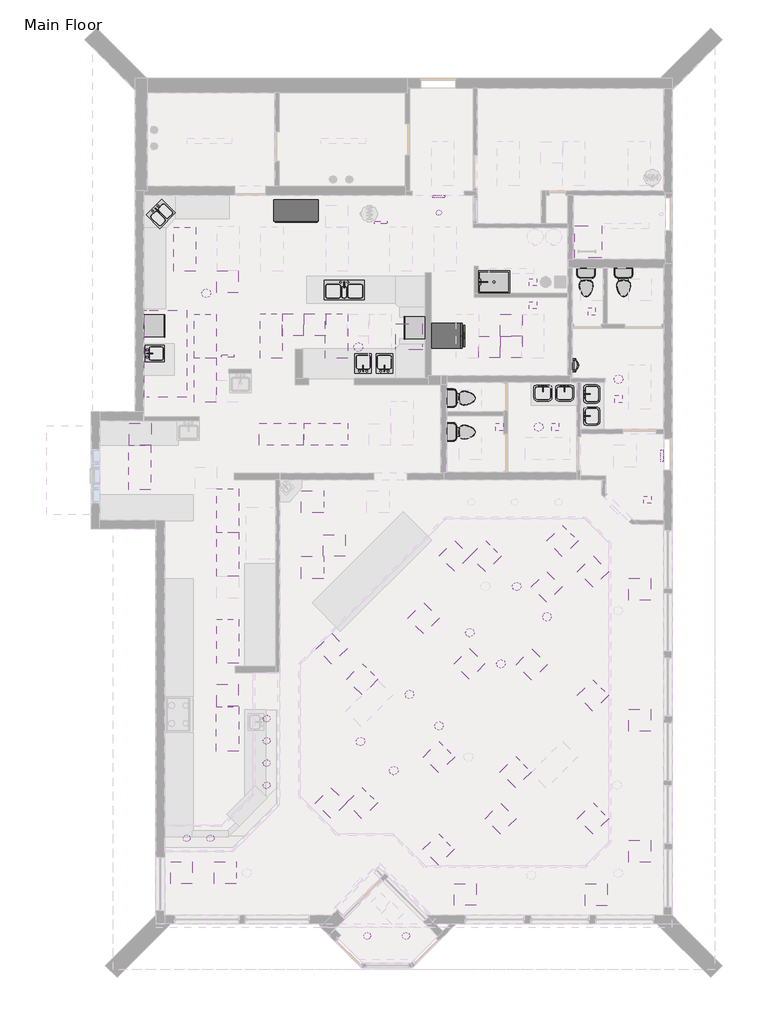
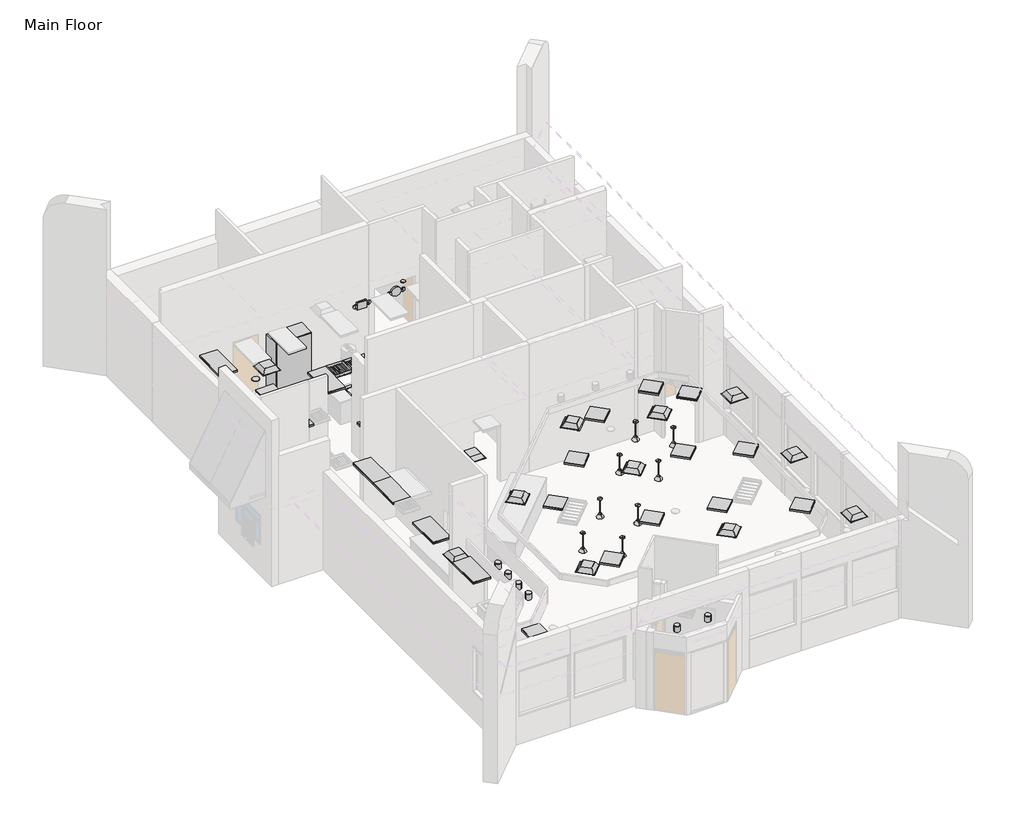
# One storey, part 5 of 6: 44 proxies, 43 light fixtures, 16 flow terminals.
"""IFC4 building model written with IfcOpenShell, lengths in millimetres."""

from ifc_helpers import new_model, si_unit, origin, place, context, project, spatial, transform, mapped, element, save
from components import air_vent_default_1_d5ec2509, air_vent_default_1_1334f17f, proxy_d9ecea55, ceiling_diffuser_default_1_edc1f895, default_1_30724830, emergency_battery_unit_default_1_01bbe0c5, emergency_light_ceiling_mounted_default_1_dcc5d60b, exhaust_hood_default_1_27298f71, exhaust_hood_default_1_90655286, freezer_default_1_44b13db3, fridge_default_1_1eb3d78d, other_default_1_57568a5f, speaker_default_1_aa482b27, flow_terminal_2d_kitchen_double_sink_default_1_641e8a09, flow_terminal_2d_kitchen_single_sink_default_1_6e0e1d67, flow_terminal_2d_kitchen_single_sink_default_1_1ce31d3a, bath_shower_basin_rectangular_default_1_810ac732, bath_basin_do_not_use_500_x_440mm_22030706, bath_urinal_default_1_75978a72, kitchen_triple_sink_default_1_5af0c558, kitchen_triple_sink_default_1_80febd71, toilet_default_1_5cb52bd4, toilet_default_1_183bbd19, wall_faucet_default_1_a1a6fd1c, pendant_light_default_1_241a7df5, recessed_fluorescent_light_default_1_c438942c, recessed_fluorescent_light_default_1_8456e3b0, light_fixture_643521e1

model = new_model("IFC4")

# Units and contexts
model_context = context("Model", 3, world=origin())
ifc_project = project(units=[si_unit("LENGTHUNIT", "METRE", prefix="MILLI")], contexts=[model_context])

# Site, building, storey
site = spatial("IfcSite", under=ifc_project)
building = spatial("IfcBuilding", under=site)
storey = spatial("IfcBuildingStorey", under=building, Name="Main Floor", Elevation=0.0)

# Proxies
placement = place(None, origin())
air_vent_default_1_shape = air_vent_default_1_d5ec2509(model_context)
element("IfcBuildingElementProxy", 1, Name="Air Vent : Default 1", ObjectType="Air Vent : Default 1", at=placement, inside=storey, context=model_context, shape_type="MappedRepresentation", body=[
    mapped(air_vent_default_1_shape, transform((4251.6515232, 5000.4499204, 152.4), x_axis=(1.0, 0.0, 0.0), y_axis=(0.0, 1.0, 0.0), z_axis=(0.0, 0.0, 1.0))),
])
element("IfcBuildingElementProxy", 2, Name="Air Vent : Default 1", ObjectType="Air Vent : Default 1", at=placement, inside=storey, context=model_context, shape_type="MappedRepresentation", body=[
    mapped(air_vent_default_1_shape, transform((4251.6515232, 4403.5499204, 152.4), x_axis=(1.0, 0.0, 0.0), y_axis=(0.0, 1.0, 0.0), z_axis=(0.0, 0.0, 1.0))),
])
element("IfcBuildingElementProxy", 3, Name="Air Vent : Default 1", ObjectType="Air Vent : Default 1", at=placement, inside=storey, context=model_context, shape_type="MappedRepresentation", body=[
    mapped(air_vent_default_1_shape, transform((3654.7515232, 4403.5499204, 152.4), x_axis=(1.0, 0.0, 0.0), y_axis=(0.0, 1.0, 0.0), z_axis=(0.0, 0.0, 1.0))),
])
element("IfcBuildingElementProxy", 4, Name="Air Vent : Default 1", ObjectType="Air Vent : Default 1", at=placement, inside=storey, context=model_context, shape_type="MappedRepresentation", body=[
    mapped(air_vent_default_1_shape, transform((-1149.515512, 5010.888886, 152.4), x_axis=(1.0, 0.0, 0.0), y_axis=(0.0, 1.0, 0.0), z_axis=(0.0, 0.0, 1.0))),
])
element("IfcBuildingElementProxy", 5, Name="Air Vent : Default 1", ObjectType="Air Vent : Default 1", at=placement, inside=storey, context=model_context, shape_type="MappedRepresentation", body=[
    mapped(air_vent_default_1_shape, transform((-1746.4156402, 5010.8890104, 152.4), x_axis=(1.0, 0.0, 0.0), y_axis=(0.0, 1.0, 0.0), z_axis=(0.0, 0.0, 1.0))),
])
air_vent_default_1_2_shape = air_vent_default_1_1334f17f(model_context)
element("IfcBuildingElementProxy", 6, Name="Air Vent : Default 1", ObjectType="Air Vent : Default 1", at=placement, inside=storey, context=model_context, shape_type="MappedRepresentation", body=[
    mapped(air_vent_default_1_2_shape, transform((4850.803255, 5546.5499204, 152.4), x_axis=(1.0, 0.0, 0.0), y_axis=(0.0, 1.0, 0.0), z_axis=(0.0, 0.0, 1.0))),
])
element("IfcBuildingElementProxy", 7, Name="Air Vent : Default 1", ObjectType="Air Vent : Default 1", at=placement, inside=storey, context=model_context, shape_type="MappedRepresentation", body=[
    mapped(air_vent_default_1_2_shape, transform((4850.803255, 6181.5499204, 152.4), x_axis=(1.0, 0.0, 0.0), y_axis=(0.0, 1.0, 0.0), z_axis=(0.0, 0.0, 1.0))),
])
element("IfcBuildingElementProxy", 8, Name="Air Vent : Default 1", ObjectType="Air Vent : Default 1", at=placement, inside=storey, context=model_context, shape_type="MappedRepresentation", body=[
    mapped(air_vent_default_1_2_shape, transform((5463.2333864, 2200.0999204, 152.4), x_axis=(1.0, 0.0, 0.0), y_axis=(0.0, 1.0, 0.0), z_axis=(0.0, 0.0, 1.0))),
])
element("IfcBuildingElementProxy", 9, Name="Air Vent : Default 1", ObjectType="Air Vent : Default 1", at=placement, inside=storey, context=model_context, shape_type="MappedRepresentation", body=[
    mapped(air_vent_default_1_2_shape, transform((3926.5333864, 2200.0999204, 152.4), x_axis=(1.0, 0.0, 0.0), y_axis=(0.0, 1.0, 0.0), z_axis=(0.0, 0.0, 1.0))),
])
element("IfcBuildingElementProxy", 10, Name="Air Vent : Default 1", ObjectType="Air Vent : Default 1", at=placement, inside=storey, context=model_context, shape_type="MappedRepresentation", body=[
    mapped(air_vent_default_1_2_shape, transform((7203.1333864, 2974.7999204, 152.4), x_axis=(1.0, 0.0, 0.0), y_axis=(0.0, 1.0, 0.0), z_axis=(0.0, 0.0, 1.0))),
])
element("IfcBuildingElementProxy", 11, Name="Air Vent : Default 1", ObjectType="Air Vent : Default 1", at=placement, inside=storey, context=model_context, shape_type="MappedRepresentation", body=[
    mapped(air_vent_default_1_2_shape, transform((6466.5333864, 5375.0999204, 152.4), x_axis=(1.0, 0.0, 0.0), y_axis=(0.0, 1.0, 0.0), z_axis=(0.0, 0.0, 1.0))),
])
element("IfcBuildingElementProxy", 12, Name="Air Vent : Default 1", ObjectType="Air Vent : Default 1", at=placement, inside=storey, context=model_context, shape_type="MappedRepresentation", body=[
    mapped(air_vent_default_1_2_shape, transform((7996.8833864, 198.9890826, 254.0), x_axis=(1.0, 0.0, 0.0), y_axis=(0.0, 1.0, 0.0), z_axis=(0.0, 0.0, 1.0))),
])
proxy_shape = proxy_d9ecea55(model_context)
element("IfcBuildingElementProxy", 13, Name="Attic Access Hatch : 2'-0\" x 2'-0\" 2", ObjectType="Attic Access Hatch : 2'-0\" x 2'-0\" 2", at=placement, inside=storey, context=model_context, shape_type="MappedRepresentation", body=[
    mapped(proxy_shape, transform((6371.2833864, 7292.7999204, 1168.4), x_axis=(1.0, 0.0, 0.0), y_axis=(0.0, 1.0, 0.0), z_axis=(0.0, 0.0, 1.0))),
])
ceiling_diffuser_default_1_shape = ceiling_diffuser_default_1_edc1f895(model_context)
element("IfcBuildingElementProxy", 14, Name="Ceiling Diffuser : Default 1", ObjectType="Ceiling Diffuser : Default 1", at=placement, inside=storey, context=model_context, shape_type="MappedRepresentation", body=[
    mapped(ceiling_diffuser_default_1_shape, transform((7789.3833864, -2263.9500796, 2743.2), x_axis=(1.0, 0.0, 0.0), y_axis=(0.0, 1.0, 0.0), z_axis=(0.0, 0.0, 1.0))),
])
element("IfcBuildingElementProxy", 15, Name="Ceiling Diffuser : Default 1", ObjectType="Ceiling Diffuser : Default 1", at=placement, inside=storey, context=model_context, shape_type="MappedRepresentation", body=[
    mapped(ceiling_diffuser_default_1_shape, transform((7786.2083864, -5861.712009, 2743.2), x_axis=(1.0, 0.0, 0.0), y_axis=(0.0, 1.0, 0.0), z_axis=(0.0, 0.0, 1.0))),
])
element("IfcBuildingElementProxy", 16, Name="Ceiling Diffuser : Default 1", ObjectType="Ceiling Diffuser : Default 1", at=placement, inside=storey, context=model_context, shape_type="MappedRepresentation", body=[
    mapped(ceiling_diffuser_default_1_shape, transform((7786.2083864, -9468.512009, 2743.2), x_axis=(1.0, 0.0, 0.0), y_axis=(0.0, 1.0, 0.0), z_axis=(0.0, 0.0, 1.0))),
])
element("IfcBuildingElementProxy", 17, Name="Ceiling Diffuser : Default 1", ObjectType="Ceiling Diffuser : Default 1", at=placement, inside=storey, context=model_context, shape_type="MappedRepresentation", body=[
    mapped(ceiling_diffuser_default_1_shape, transform((6589.2333864, -10661.1946543, 2743.2), x_axis=(1.0, 0.0, 0.0), y_axis=(0.0, 1.0, 0.0), z_axis=(0.0, 0.0, 1.0))),
])
element("IfcBuildingElementProxy", 18, Name="Ceiling Diffuser : Default 1", ObjectType="Ceiling Diffuser : Default 1", at=placement, inside=storey, context=model_context, shape_type="MappedRepresentation", body=[
    mapped(ceiling_diffuser_default_1_shape, transform((2986.2683764, -10658.6500796, 2743.2), x_axis=(1.0, 0.0, 0.0), y_axis=(0.0, 1.0, 0.0), z_axis=(0.0, 0.0, 1.0))),
])
element("IfcBuildingElementProxy", 19, Name="Ceiling Diffuser : Default 1", ObjectType="Ceiling Diffuser : Default 1", at=placement, inside=storey, context=model_context, shape_type="MappedRepresentation", body=[
    mapped(ceiling_diffuser_default_1_shape, transform((-4815.3666136, -10061.1196543, 2743.2), x_axis=(1.0, 0.0, 0.0), y_axis=(0.0, 1.0, 0.0), z_axis=(0.0, 0.0, 1.0))),
])
element("IfcBuildingElementProxy", 20, Name="Ceiling Diffuser : Default 1", ObjectType="Ceiling Diffuser : Default 1", at=placement, inside=storey, context=model_context, shape_type="MappedRepresentation", body=[
    mapped(ceiling_diffuser_default_1_shape, transform((-613.7166136, -1061.1114276, 2743.2), x_axis=(1.0, 0.0, 0.0), y_axis=(0.0, 1.0, 0.0), z_axis=(0.0, 0.0, 1.0))),
])
element("IfcBuildingElementProxy", 21, Name="Ceiling Diffuser : Default 1", ObjectType="Ceiling Diffuser : Default 1", at=placement, inside=storey, context=model_context, shape_type="MappedRepresentation", body=[
    mapped(ceiling_diffuser_default_1_shape, transform((-3547.4166136, -5178.6000796, 2590.8), x_axis=(1.0, 0.0, 0.0), y_axis=(0.0, 1.0, 0.0), z_axis=(0.0, 0.0, 1.0))),
])
element("IfcBuildingElementProxy", 22, Name="Ceiling Diffuser : Default 1", ObjectType="Ceiling Diffuser : Default 1", at=placement, inside=storey, context=model_context, shape_type="MappedRepresentation", body=[
    mapped(ceiling_diffuser_default_1_shape, transform((-5949.619329, 1998.2462841, 2590.8), x_axis=(1.0, 0.0, 0.0), y_axis=(0.0, 1.0, 0.0), z_axis=(0.0, 0.0, 1.0))),
])
element("IfcBuildingElementProxy", 23, Name="Ceiling Diffuser : Default 1", ObjectType="Ceiling Diffuser : Default 1", at=placement, inside=storey, context=model_context, shape_type="MappedRepresentation", body=[
    mapped(ceiling_diffuser_default_1_shape, transform((-706.2827476, -8141.9269933, 2946.4), x_axis=(0.7071067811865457, -0.7071067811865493, 0.0), y_axis=(0.7071067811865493, 0.7071067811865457, 0.0), z_axis=(0.0, 0.0, 1.0))),
])
element("IfcBuildingElementProxy", 24, Name="Ceiling Diffuser : Default 1", ObjectType="Ceiling Diffuser : Default 1", at=placement, inside=storey, context=model_context, shape_type="MappedRepresentation", body=[
    mapped(ceiling_diffuser_default_1_shape, transform((5229.6546641, -2199.634079, 2946.4), x_axis=(0.7071067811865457, -0.7071067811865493, 0.0), y_axis=(0.7071067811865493, 0.7071067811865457, 0.0), z_axis=(0.0, 0.0, 1.0))),
])
element("IfcBuildingElementProxy", 25, Name="Ceiling Diffuser : Default 1", ObjectType="Ceiling Diffuser : Default 1", at=placement, inside=storey, context=model_context, shape_type="MappedRepresentation", body=[
    mapped(ceiling_diffuser_default_1_shape, transform((-683.117186, -3899.1250399, 2946.4), x_axis=(0.7071067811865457, -0.7071067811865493, 0.0), y_axis=(0.7071067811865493, 0.7071067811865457, 0.0), z_axis=(0.0, 0.0, 1.0))),
])
element("IfcBuildingElementProxy", 26, Name="Ceiling Diffuser : Default 1", ObjectType="Ceiling Diffuser : Default 1", at=placement, inside=storey, context=model_context, shape_type="MappedRepresentation", body=[
    mapped(ceiling_diffuser_default_1_shape, transform((2694.7172176, -1347.4741995, 2946.4), x_axis=(0.7071067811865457, -0.7071067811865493, 0.0), y_axis=(0.7071067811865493, 0.7071067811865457, 0.0), z_axis=(0.0, 0.0, 1.0))),
])
element("IfcBuildingElementProxy", 27, Name="Ceiling Diffuser : Default 1", ObjectType="Ceiling Diffuser : Default 1", at=placement, inside=storey, context=model_context, shape_type="MappedRepresentation", body=[
    mapped(ceiling_diffuser_default_1_shape, transform((3962.4371274, -8570.7783501, 2946.4), x_axis=(0.7071067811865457, -0.7071067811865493, 0.0), y_axis=(0.7071067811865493, 0.7071067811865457, 0.0), z_axis=(0.0, 0.0, 1.0))),
])
element("IfcBuildingElementProxy", 28, Name="Ceiling Diffuser : Default 1", ObjectType="Ceiling Diffuser : Default 1", at=placement, inside=storey, context=model_context, shape_type="MappedRepresentation", body=[
    mapped(ceiling_diffuser_default_1_shape, transform((3104.3002881, -4314.4674305, 2946.4), x_axis=(0.7071067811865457, -0.7071067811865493, 0.0), y_axis=(0.7071067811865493, 0.7071067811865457, 0.0), z_axis=(0.0, 0.0, 1.0))),
])
element("IfcBuildingElementProxy", 29, Name="Ceiling Diffuser : Default 1", ObjectType="Ceiling Diffuser : Default 1", at=placement, inside=storey, context=model_context, shape_type="MappedRepresentation", body=[
    mapped(ceiling_diffuser_default_1_shape, transform((-3549.6082055, 6198.2485173, 2590.8), x_axis=(1.0, 0.0, 0.0), y_axis=(0.0, 1.0, 0.0), z_axis=(0.0, 0.0, 1.0))),
])
default_1_shape = default_1_30724830(model_context)
element("IfcBuildingElementProxy", 30, Name="Emegency Light - Wall Mounted : Default 1", ObjectType="Emegency Light - Wall Mounted : Default 1", at=placement, inside=storey, context=model_context, shape_type="MappedRepresentation", body=[
    mapped(default_1_shape, transform((2262.8333864, 8569.1499204, 152.4), x_axis=(1.0, 0.0, 0.0), y_axis=(0.0, 1.0, 0.0), z_axis=(0.0, 0.0, 1.0))),
])
element("IfcBuildingElementProxy", 31, Name="Emegency Light - Wall Mounted : Default 1", ObjectType="Emegency Light - Wall Mounted : Default 1", at=placement, inside=storey, context=model_context, shape_type="MappedRepresentation", body=[
    mapped(default_1_shape, transform((8435.1891469, 1411.8414826, 254.0), x_axis=(0.0, -1.0, 0.0), y_axis=(1.0, 0.0, 0.0), z_axis=(0.0, 0.0, 1.0))),
])
emergency_battery_unit_default_1_shape = emergency_battery_unit_default_1_01bbe0c5(model_context)
element("IfcBuildingElementProxy", 32, Name="Emergency Battery Unit : Default 1", ObjectType="Emergency Battery Unit : Default 1", at=placement, inside=storey, context=model_context, shape_type="MappedRepresentation", body=[
    mapped(emergency_battery_unit_default_1_shape, transform((662.6333864, 6873.0910968, 152.4), x_axis=(1.0, 0.0, 0.0), y_axis=(0.0, 1.0, 0.0), z_axis=(0.0, 0.0, 1.0))),
])
element("IfcBuildingElementProxy", 33, Name="Emergency Battery Unit : Default 1", ObjectType="Emergency Battery Unit : Default 1", at=placement, inside=storey, context=model_context, shape_type="MappedRepresentation", body=[
    mapped(emergency_battery_unit_default_1_shape, transform((-3547.4166136, 5096.308744, 152.4), x_axis=(-1.0, 0.0, 0.0), y_axis=(0.0, -1.0, 0.0), z_axis=(0.0, 0.0, 1.0))),
])
emergency_light_ceiling_mounted_default_1_shape = emergency_light_ceiling_mounted_default_1_dcc5d60b(model_context)
element("IfcBuildingElementProxy", 34, Name="Emergency Light- Ceiling Mounted : Default 1", ObjectType="Emergency Light- Ceiling Mounted : Default 1", at=placement, inside=storey, context=model_context, shape_type="MappedRepresentation", body=[
    mapped(emergency_light_ceiling_mounted_default_1_shape, transform((2262.8333864, 8092.8999204, 152.4), x_axis=(1.0, 0.0, 0.0), y_axis=(0.0, 1.0, 0.0), z_axis=(0.0, 0.0, 1.0))),
])
exhaust_hood_default_1_shape = exhaust_hood_default_1_27298f71(model_context)
element("IfcBuildingElementProxy", 35, Name="Exhaust Hood : Default 1", ObjectType="Exhaust Hood : Default 1", at=placement, inside=storey, context=model_context, shape_type="MappedRepresentation", body=[
    mapped(exhaust_hood_default_1_shape, transform((1081.7333864, 5038.5499204, 0.0), x_axis=(0.0, -1.0, 0.0), y_axis=(1.0, 0.0, 0.0), z_axis=(0.0, 0.0, 1.0))),
])
exhaust_hood_default_1_2_shape = exhaust_hood_default_1_90655286(model_context)
element("IfcBuildingElementProxy", 36, Name="Exhaust Hood : Default 1", ObjectType="Exhaust Hood : Default 1", at=placement, inside=storey, context=model_context, shape_type="MappedRepresentation", body=[
    mapped(exhaust_hood_default_1_2_shape, transform((-4676.4409752, 5408.0157673, 0.0), x_axis=(-1.0, 0.0, 0.0), y_axis=(0.0, -1.0, 0.0), z_axis=(0.0, 0.0, 1.0))),
])
freezer_default_1_shape = freezer_default_1_44b13db3(model_context)
element("IfcBuildingElementProxy", 37, Name="Freezer : Default 1", ObjectType="Freezer : Default 1", at=placement, inside=storey, context=model_context, shape_type="MappedRepresentation", body=[
    mapped(freezer_default_1_shape, transform((-1277.349669, 8444.8999204, 0.0), x_axis=(1.0, 0.0, 0.0), y_axis=(0.0, 1.0, 0.0), z_axis=(0.0, 0.0, 1.0))),
])
fridge_default_1_shape = fridge_default_1_1eb3d78d(model_context)
element("IfcBuildingElementProxy", 38, Name="Fridge : Default 1", ObjectType="Fridge : Default 1", at=placement, inside=storey, context=model_context, shape_type="MappedRepresentation", body=[
    mapped(fridge_default_1_shape, transform((1959.6333864, 4706.7364408, 0.0), x_axis=(0.0, 1.0, 0.0), y_axis=(-1.0, 0.0, 0.0), z_axis=(0.0, 0.0, 1.0))),
])
other_default_1_shape = other_default_1_57568a5f(model_context)
element("IfcBuildingElementProxy", 39, Name="Other : Default 1", ObjectType="Other : Default 1", at=placement, inside=storey, context=model_context, shape_type="MappedRepresentation", body=[
    mapped(other_default_1_shape, transform((1977.8513864, 4927.8528598, 0.0), x_axis=(0.0, -1.0, 0.0), y_axis=(1.0, 0.0, 0.0), z_axis=(0.0, 0.0, 1.0))),
])
element("IfcBuildingElementProxy", 40, Name="Other : Default 1", ObjectType="Other : Default 1", at=placement, inside=storey, context=model_context, shape_type="MappedRepresentation", body=[
    mapped(other_default_1_shape, transform((-5946.1166136, 4981.3999204, 0.0), x_axis=(0.0, 1.0, 0.0), y_axis=(-1.0, 0.0, 0.0), z_axis=(0.0, 0.0, 1.0))),
])
speaker_default_1_shape = speaker_default_1_aa482b27(model_context)
element("IfcBuildingElementProxy", 41, Name="Speaker : Default 1", ObjectType="Speaker : Default 1", at=placement, inside=storey, context=model_context, shape_type="MappedRepresentation", body=[
    mapped(speaker_default_1_shape, transform((-4131.6166136, 5876.7499204, 152.4), x_axis=(1.0, 0.0, 0.0), y_axis=(0.0, 1.0, 0.0), z_axis=(0.0, 0.0, 1.0))),
])
element("IfcBuildingElementProxy", 42, Name="Speaker : Default 1", ObjectType="Speaker : Default 1", at=placement, inside=storey, context=model_context, shape_type="MappedRepresentation", body=[
    mapped(speaker_default_1_shape, transform((46.6833864, 4397.1999204, 152.4), x_axis=(1.0, 0.0, 0.0), y_axis=(0.0, 1.0, 0.0), z_axis=(0.0, 0.0, 1.0))),
])
element("IfcBuildingElementProxy", 43, Name="Speaker : Default 1", ObjectType="Speaker : Default 1", at=placement, inside=storey, context=model_context, shape_type="MappedRepresentation", body=[
    mapped(speaker_default_1_shape, transform((5006.0333864, 2200.0999204, 152.4), x_axis=(1.0, 0.0, 0.0), y_axis=(0.0, 1.0, 0.0), z_axis=(0.0, 0.0, 1.0))),
])
element("IfcBuildingElementProxy", 44, Name="Speaker : Default 1", ObjectType="Speaker : Default 1", at=placement, inside=storey, context=model_context, shape_type="MappedRepresentation", body=[
    mapped(speaker_default_1_shape, transform((7203.1333864, 3514.5499204, 152.4), x_axis=(1.0, 0.0, 0.0), y_axis=(0.0, 1.0, 0.0), z_axis=(0.0, 0.0, 1.0))),
])

# Flow terminals
flow_terminal_2d_kitchen_double_sink_default_1_shape = flow_terminal_2d_kitchen_double_sink_default_1_641e8a09(model_context)
element("IfcFlowTerminal", 45, ObjectType="2D Kitchen-Double Sink : Default 1", at=placement, inside=storey, context=model_context, shape_type="MappedRepresentation", body=[
    mapped(flow_terminal_2d_kitchen_double_sink_default_1_shape, transform((-5394.1420974, 8047.9068331, 152.4), x_axis=(0.7071067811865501, 0.707106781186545, 0.0), y_axis=(-0.707106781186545, 0.7071067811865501, 0.0), z_axis=(0.0, 0.0, 1.0))),
])
flow_terminal_2d_kitchen_single_sink_default_1_shape = flow_terminal_2d_kitchen_single_sink_default_1_6e0e1d67(model_context)
element("IfcFlowTerminal", 46, ObjectType="2D Kitchen-Single Sink : Default 1", at=placement, inside=storey, context=model_context, shape_type="MappedRepresentation", body=[
    mapped(flow_terminal_2d_kitchen_single_sink_default_1_shape, transform((-5548.1237165, 4205.5552712, 152.4), x_axis=(0.0, 1.0, 0.0), y_axis=(-1.0, 0.0, 0.0), z_axis=(0.0, 0.0, 1.0))),
])
flow_terminal_2d_kitchen_single_sink_default_1_2_shape = flow_terminal_2d_kitchen_single_sink_default_1_1ce31d3a(model_context)
element("IfcFlowTerminal", 47, ObjectType="2D Kitchen-Single Sink : Default 1", at=placement, inside=storey, context=model_context, shape_type="MappedRepresentation", body=[
    mapped(flow_terminal_2d_kitchen_single_sink_default_1_2_shape, transform((779.922627, 3949.4953215, 0.0), x_axis=(-1.0, 0.0, 0.0), y_axis=(0.0, -1.0, 0.0), z_axis=(0.0, 0.0, 1.0))),
])
element("IfcFlowTerminal", 48, ObjectType="2D Kitchen-Single Sink : Default 1", at=placement, inside=storey, context=model_context, shape_type="MappedRepresentation", body=[
    mapped(flow_terminal_2d_kitchen_single_sink_default_1_2_shape, transform((195.722627, 3949.4953215, 0.0), x_axis=(-1.0, 0.0, 0.0), y_axis=(0.0, -1.0, 0.0), z_axis=(0.0, 0.0, 1.0))),
])
bath_shower_basin_rectangular_default_1_shape = bath_shower_basin_rectangular_default_1_810ac732(model_context)
element("IfcFlowTerminal", 49, ObjectType="Bath- Shower - Basin Rectangular : Default 1", at=placement, inside=storey, context=model_context, shape_type="MappedRepresentation", body=[
    mapped(bath_shower_basin_rectangular_default_1_shape, transform((3777.3083864, 6191.0749204, 0.0), x_axis=(1.0, 0.0, 0.0), y_axis=(0.0, 1.0, 0.0), z_axis=(0.0, 0.0, 1.0))),
])
bath_basin_do_not_use_500_x_440mm_shape = bath_basin_do_not_use_500_x_440mm_22030706(model_context)
element("IfcFlowTerminal", 50, ObjectType="Bath-Basin DO NOT USE : 500 x 440mm", at=placement, inside=storey, context=model_context, shape_type="MappedRepresentation", body=[
    mapped(bath_basin_do_not_use_500_x_440mm_shape, transform((5107.8191459, 3173.4045193, 152.4), x_axis=(1.0, 0.0, 0.0), y_axis=(0.0, 1.0, 0.0), z_axis=(0.0, 0.0, 1.0))),
])
element("IfcFlowTerminal", 51, ObjectType="Bath-Basin DO NOT USE : 500 x 440mm", at=placement, inside=storey, context=model_context, shape_type="MappedRepresentation", body=[
    mapped(bath_basin_do_not_use_500_x_440mm_shape, transform((5704.7191459, 3173.4045193, 152.4), x_axis=(1.0, 0.0, 0.0), y_axis=(0.0, 1.0, 0.0), z_axis=(0.0, 0.0, 1.0))),
])
element("IfcFlowTerminal", 52, ObjectType="Bath-Basin DO NOT USE : 500 x 440mm", at=placement, inside=storey, context=model_context, shape_type="MappedRepresentation", body=[
    mapped(bath_basin_do_not_use_500_x_440mm_shape, transform((6426.6787875, 3092.4606798, 152.4), x_axis=(0.0, 1.0, 0.0), y_axis=(-1.0, 0.0, 0.0), z_axis=(0.0, 0.0, 1.0))),
])
element("IfcFlowTerminal", 53, ObjectType="Bath-Basin DO NOT USE : 500 x 440mm", at=placement, inside=storey, context=model_context, shape_type="MappedRepresentation", body=[
    mapped(bath_basin_do_not_use_500_x_440mm_shape, transform((6426.6787875, 2482.8606798, 152.4), x_axis=(0.0, 1.0, 0.0), y_axis=(-1.0, 0.0, 0.0), z_axis=(0.0, 0.0, 1.0))),
])
bath_urinal_default_1_shape = bath_urinal_default_1_75978a72(model_context)
element("IfcFlowTerminal", 54, ObjectType="Bath-Urinal : Default 1", at=placement, inside=storey, context=model_context, shape_type="MappedRepresentation", body=[
    mapped(bath_urinal_default_1_shape, transform((5869.6333864, 3786.7324949, 0.0), x_axis=(0.0, -1.0, 0.0), y_axis=(1.0, 0.0, 0.0), z_axis=(0.0, 0.0, 1.0))),
])
kitchen_triple_sink_default_1_shape = kitchen_triple_sink_default_1_5af0c558(model_context)
kitchen_triple_sink_default_1_2_shape = kitchen_triple_sink_default_1_80febd71(model_context)
element("IfcFlowTerminal", 55, ObjectType="Kitchen - Triple Sink : Default 1", at=placement, inside=storey, context=model_context, shape_type="MappedRepresentation", body=[
    mapped(kitchen_triple_sink_default_1_shape, transform((-432.2364338, 5971.9999204, 0.0), x_axis=(1.0, 0.0, 0.0), y_axis=(0.0, 1.0, 0.0), z_axis=(0.0, 0.0, 1.0))),
    mapped(kitchen_triple_sink_default_1_2_shape, transform((-432.2364338, 5971.9999204, 0.0), x_axis=(1.0, 0.0, 0.0), y_axis=(0.0, 1.0, 0.0), z_axis=(0.0, 0.0, 1.0))),
])
toilet_default_1_shape = toilet_default_1_5cb52bd4(model_context)
toilet_default_1_2_shape = toilet_default_1_183bbd19(model_context)
element("IfcFlowTerminal", 56, ObjectType="Toilet : Default 1", at=placement, inside=storey, context=model_context, shape_type="MappedRepresentation", body=[
    mapped(toilet_default_1_shape, transform((6312.1333864, 6087.153893, 0.0), x_axis=(1.0, 0.0, 0.0), y_axis=(0.0, 1.0, 0.0), z_axis=(0.0, 0.0, 1.0))),
    mapped(toilet_default_1_2_shape, transform((6312.1333864, 6087.153893, 0.0), x_axis=(1.0, 0.0, 0.0), y_axis=(0.0, 1.0, 0.0), z_axis=(0.0, 0.0, 1.0))),
])
element("IfcFlowTerminal", 57, ObjectType="Toilet : Default 1", at=placement, inside=storey, context=model_context, shape_type="MappedRepresentation", body=[
    mapped(toilet_default_1_shape, transform((7342.1333864, 6087.153893, 0.0), x_axis=(1.0, 0.0, 0.0), y_axis=(0.0, 1.0, 0.0), z_axis=(0.0, 0.0, 1.0))),
    mapped(toilet_default_1_2_shape, transform((7342.1333864, 6087.153893, 0.0), x_axis=(1.0, 0.0, 0.0), y_axis=(0.0, 1.0, 0.0), z_axis=(0.0, 0.0, 1.0))),
])
element("IfcFlowTerminal", 58, ObjectType="Toilet : Default 1", at=placement, inside=storey, context=model_context, shape_type="MappedRepresentation", body=[
    mapped(toilet_default_1_shape, transform((2962.7294138, 2059.6999204, 0.0), x_axis=(0.0, 1.0, 0.0), y_axis=(-1.0, 0.0, 0.0), z_axis=(0.0, 0.0, 1.0))),
    mapped(toilet_default_1_2_shape, transform((2962.7294138, 2059.6999204, 0.0), x_axis=(0.0, 1.0, 0.0), y_axis=(-1.0, 0.0, 0.0), z_axis=(0.0, 0.0, 1.0))),
])
element("IfcFlowTerminal", 59, ObjectType="Toilet : Default 1", at=placement, inside=storey, context=model_context, shape_type="MappedRepresentation", body=[
    mapped(toilet_default_1_shape, transform((2962.7294138, 2993.1999204, 0.0), x_axis=(0.0, 1.0, 0.0), y_axis=(-1.0, 0.0, 0.0), z_axis=(0.0, 0.0, 1.0))),
    mapped(toilet_default_1_2_shape, transform((2962.7294138, 2993.1999204, 0.0), x_axis=(0.0, 1.0, 0.0), y_axis=(-1.0, 0.0, 0.0), z_axis=(0.0, 0.0, 1.0))),
])
wall_faucet_default_1_shape = wall_faucet_default_1_a1a6fd1c(model_context)
element("IfcFlowTerminal", 60, ObjectType="Wall Faucet : Default 1", at=placement, inside=storey, context=model_context, shape_type="MappedRepresentation", body=[
    mapped(wall_faucet_default_1_shape, transform((3528.8287875, 6175.3856798, 50.8), x_axis=(0.0, 1.0, 0.0), y_axis=(-1.0, 0.0, 0.0), z_axis=(0.0, 0.0, 1.0))),
])

# Light fixtures
pendant_light_default_1_shape = pendant_light_default_1_241a7df5(model_context)
element("IfcLightFixture", 61, ObjectType="Pendant Light : Default 1", at=placement, inside=storey, context=model_context, shape_type="MappedRepresentation", body=[
    mapped(pendant_light_default_1_shape, transform((1022.1002035, -7248.7000796, 508.0), x_axis=(1.0, 0.0, 0.0), y_axis=(0.0, 1.0, 0.0), z_axis=(0.0, 0.0, 1.0))),
])
element("IfcLightFixture", 62, ObjectType="Pendant Light : Default 1", at=placement, inside=storey, context=model_context, shape_type="MappedRepresentation", body=[
    mapped(pendant_light_default_1_shape, transform((107.7002035, -6448.6000796, 508.0), x_axis=(1.0, 0.0, 0.0), y_axis=(0.0, 1.0, 0.0), z_axis=(0.0, 0.0, 1.0))),
])
element("IfcLightFixture", 63, ObjectType="Pendant Light : Default 1", at=placement, inside=storey, context=model_context, shape_type="MappedRepresentation", body=[
    mapped(pendant_light_default_1_shape, transform((1453.9002035, -5153.2000796, 508.0), x_axis=(1.0, 0.0, 0.0), y_axis=(0.0, 1.0, 0.0), z_axis=(0.0, 0.0, 1.0))),
])
element("IfcLightFixture", 64, ObjectType="Pendant Light : Default 1", at=placement, inside=storey, context=model_context, shape_type="MappedRepresentation", body=[
    mapped(pendant_light_default_1_shape, transform((2266.7002035, -6016.8000796, 508.0), x_axis=(1.0, 0.0, 0.0), y_axis=(0.0, 1.0, 0.0), z_axis=(0.0, 0.0, 1.0))),
])
element("IfcLightFixture", 65, ObjectType="Pendant Light : Default 1", at=placement, inside=storey, context=model_context, shape_type="MappedRepresentation", body=[
    mapped(pendant_light_default_1_shape, transform((3968.5002035, -4312.1259793, 508.0), x_axis=(1.0, 0.0, 0.0), y_axis=(0.0, 1.0, 0.0), z_axis=(0.0, 0.0, 1.0))),
])
element("IfcLightFixture", 66, ObjectType="Pendant Light : Default 1", at=placement, inside=storey, context=model_context, shape_type="MappedRepresentation", body=[
    mapped(pendant_light_default_1_shape, transform((3115.129724, -3454.082619, 508.0), x_axis=(1.0, 0.0, 0.0), y_axis=(0.0, 1.0, 0.0), z_axis=(0.0, 0.0, 1.0))),
])
element("IfcLightFixture", 67, ObjectType="Pendant Light : Default 1", at=placement, inside=storey, context=model_context, shape_type="MappedRepresentation", body=[
    mapped(pendant_light_default_1_shape, transform((4401.2398786, -2184.8837377, 508.0), x_axis=(1.0, 0.0, 0.0), y_axis=(0.0, 1.0, 0.0), z_axis=(0.0, 0.0, 1.0))),
])
element("IfcLightFixture", 68, ObjectType="Pendant Light : Default 1", at=placement, inside=storey, context=model_context, shape_type="MappedRepresentation", body=[
    mapped(pendant_light_default_1_shape, transform((5235.3837173, -3019.0275764, 508.0), x_axis=(1.0, 0.0, 0.0), y_axis=(0.0, 1.0, 0.0), z_axis=(0.0, 0.0, 1.0))),
])
recessed_fluorescent_light_default_1_shape = recessed_fluorescent_light_default_1_c438942c(model_context)
element("IfcLightFixture", 69, ObjectType="Recessed Fluorescent Light : Default 1", at=placement, inside=storey, context=model_context, shape_type="MappedRepresentation", body=[
    mapped(recessed_fluorescent_light_default_1_shape, transform((-4722.1666136, 7089.5999204, 152.4), x_axis=(0.0, 1.0, 0.0), y_axis=(-1.0, 0.0, 0.0), z_axis=(0.0, 0.0, 1.0))),
])
element("IfcLightFixture", 70, ObjectType="Recessed Fluorescent Light : Default 1", at=placement, inside=storey, context=model_context, shape_type="MappedRepresentation", body=[
    mapped(recessed_fluorescent_light_default_1_shape, transform((-550.2166136, 4701.9999204, 152.4), x_axis=(0.0, 1.0, 0.0), y_axis=(-1.0, 0.0, 0.0), z_axis=(0.0, 0.0, 1.0))),
])
element("IfcLightFixture", 71, ObjectType="Recessed Fluorescent Light : Default 1", at=placement, inside=storey, context=model_context, shape_type="MappedRepresentation", body=[
    mapped(recessed_fluorescent_light_default_1_shape, transform((-4157.0166136, 4695.6499204, 152.4), x_axis=(0.0, 1.0, 0.0), y_axis=(-1.0, 0.0, 0.0), z_axis=(0.0, 0.0, 1.0))),
])
element("IfcLightFixture", 72, ObjectType="Recessed Fluorescent Light : Default 1", at=placement, inside=storey, context=model_context, shape_type="MappedRepresentation", body=[
    mapped(recessed_fluorescent_light_default_1_shape, transform((-4157.0166136, 3489.1499204, 152.4), x_axis=(0.0, 1.0, 0.0), y_axis=(-1.0, 0.0, 0.0), z_axis=(0.0, 0.0, 1.0))),
])
element("IfcLightFixture", 73, ObjectType="Recessed Fluorescent Light : Default 1", at=placement, inside=storey, context=model_context, shape_type="MappedRepresentation", body=[
    mapped(recessed_fluorescent_light_default_1_shape, transform((-2067.8666136, 1996.8999204, 152.4), x_axis=(1.0, 0.0, 0.0), y_axis=(0.0, 1.0, 0.0), z_axis=(0.0, 0.0, 1.0))),
])
element("IfcLightFixture", 74, ObjectType="Recessed Fluorescent Light : Default 1", at=placement, inside=storey, context=model_context, shape_type="MappedRepresentation", body=[
    mapped(recessed_fluorescent_light_default_1_shape, transform((-848.6666136, 1996.8999204, 152.4), x_axis=(1.0, 0.0, 0.0), y_axis=(0.0, 1.0, 0.0), z_axis=(0.0, 0.0, 1.0))),
])
element("IfcLightFixture", 75, ObjectType="Recessed Fluorescent Light : Default 1", at=placement, inside=storey, context=model_context, shape_type="MappedRepresentation", body=[
    mapped(recessed_fluorescent_light_default_1_shape, transform((-3547.4166136, -6105.7000796, 152.4), x_axis=(0.0, 1.0, 0.0), y_axis=(-1.0, 0.0, 0.0), z_axis=(0.0, 0.0, 1.0))),
])
element("IfcLightFixture", 76, ObjectType="Recessed Fluorescent Light : Default 1", at=placement, inside=storey, context=model_context, shape_type="MappedRepresentation", body=[
    mapped(recessed_fluorescent_light_default_1_shape, transform((-3541.0666136, -3692.7000796, 152.4), x_axis=(0.0, 1.0, 0.0), y_axis=(-1.0, 0.0, 0.0), z_axis=(0.0, 0.0, 1.0))),
])
element("IfcLightFixture", 77, ObjectType="Recessed Fluorescent Light : Default 1", at=placement, inside=storey, context=model_context, shape_type="MappedRepresentation", body=[
    mapped(recessed_fluorescent_light_default_1_shape, transform((-3541.0666136, -1298.7500796, 152.4), x_axis=(0.0, 1.0, 0.0), y_axis=(-1.0, 0.0, 0.0), z_axis=(0.0, 0.0, 1.0))),
])
element("IfcLightFixture", 78, ObjectType="Recessed Fluorescent Light : Default 1", at=placement, inside=storey, context=model_context, shape_type="MappedRepresentation", body=[
    mapped(recessed_fluorescent_light_default_1_shape, transform((-3541.0666136, -104.9500796, 152.4), x_axis=(0.0, 1.0, 0.0), y_axis=(-1.0, 0.0, 0.0), z_axis=(0.0, 0.0, 1.0))),
])
element("IfcLightFixture", 79, ObjectType="Recessed Fluorescent Light : Default 1", at=placement, inside=storey, context=model_context, shape_type="MappedRepresentation", body=[
    mapped(recessed_fluorescent_light_default_1_shape, transform((-5966.7666136, 1088.8499204, 152.4), x_axis=(0.0, 1.0, 0.0), y_axis=(-1.0, 0.0, 0.0), z_axis=(0.0, 0.0, 1.0))),
])
element("IfcLightFixture", 80, ObjectType="Recessed Fluorescent Light : Default 1", at=placement, inside=storey, context=model_context, shape_type="MappedRepresentation", body=[
    mapped(recessed_fluorescent_light_default_1_shape, transform((-2350.2166136, 4701.9999204, 152.4), x_axis=(0.0, 1.0, 0.0), y_axis=(-1.0, 0.0, 0.0), z_axis=(0.0, 0.0, 1.0))),
])
recessed_fluorescent_light_default_1_2_shape = recessed_fluorescent_light_default_1_8456e3b0(model_context)
element("IfcLightFixture", 81, ObjectType="Recessed Fluorescent Light : Default 1", at=placement, inside=storey, context=model_context, shape_type="MappedRepresentation", body=[
    mapped(recessed_fluorescent_light_default_1_2_shape, transform((-3615.2166136, -10055.4000796, 304.8), x_axis=(1.0, 0.0, 0.0), y_axis=(0.0, 1.0, 0.0), z_axis=(0.0, 0.0, 1.0))),
])
element("IfcLightFixture", 82, ObjectType="Recessed Fluorescent Light : Default 1", at=placement, inside=storey, context=model_context, shape_type="MappedRepresentation", body=[
    mapped(recessed_fluorescent_light_default_1_2_shape, transform((-1213.7916136, 139.5249204, 304.8), x_axis=(1.0, 0.0, 0.0), y_axis=(0.0, 1.0, 0.0), z_axis=(0.0, 0.0, 1.0))),
])
element("IfcLightFixture", 83, ObjectType="Recessed Fluorescent Light : Default 1", at=placement, inside=storey, context=model_context, shape_type="MappedRepresentation", body=[
    mapped(recessed_fluorescent_light_default_1_2_shape, transform((-1213.7916136, -1663.8750796, 304.8), x_axis=(1.0, 0.0, 0.0), y_axis=(0.0, 1.0, 0.0), z_axis=(0.0, 0.0, 1.0))),
])
element("IfcLightFixture", 84, ObjectType="Recessed Fluorescent Light : Default 1", at=placement, inside=storey, context=model_context, shape_type="MappedRepresentation", body=[
    mapped(recessed_fluorescent_light_default_1_2_shape, transform((2255.8586998, -9416.7039173, 508.0), x_axis=(0.7071067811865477, 0.7071067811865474, 0.0), y_axis=(-0.7071067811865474, 0.7071067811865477, 0.0), z_axis=(0.0, 0.0, 1.0))),
])
element("IfcLightFixture", 85, ObjectType="Recessed Fluorescent Light : Default 1", at=placement, inside=storey, context=model_context, shape_type="MappedRepresentation", body=[
    mapped(recessed_fluorescent_light_default_1_2_shape, transform((145.4155812, -8137.8707344, 508.0), x_axis=(0.7071067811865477, 0.7071067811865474, 0.0), y_axis=(-0.7071067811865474, 0.7071067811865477, 0.0), z_axis=(0.0, 0.0, 1.0))),
])
element("IfcLightFixture", 86, ObjectType="Recessed Fluorescent Light : Default 1", at=placement, inside=storey, context=model_context, shape_type="MappedRepresentation", body=[
    mapped(recessed_fluorescent_light_default_1_2_shape, transform((6504.1654832, -1776.6470089, 508.0), x_axis=(0.7071067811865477, 0.7071067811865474, 0.0), y_axis=(-0.7071067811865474, 0.7071067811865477, 0.0), z_axis=(0.0, 0.0, 1.0))),
])
element("IfcLightFixture", 87, ObjectType="Recessed Fluorescent Light : Default 1", at=placement, inside=storey, context=model_context, shape_type="MappedRepresentation", body=[
    mapped(recessed_fluorescent_light_default_1_2_shape, transform((5659.4343476, -931.9158733, 508.0), x_axis=(0.7071067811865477, 0.7071067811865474, 0.0), y_axis=(-0.7071067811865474, 0.7071067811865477, 0.0), z_axis=(0.0, 0.0, 1.0))),
])
element("IfcLightFixture", 88, ObjectType="Recessed Fluorescent Light : Default 1", at=placement, inside=storey, context=model_context, shape_type="MappedRepresentation", body=[
    mapped(recessed_fluorescent_light_default_1_2_shape, transform((157.38409, -4735.7823618, 508.0), x_axis=(0.7071067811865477, 0.7071067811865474, 0.0), y_axis=(-0.7071067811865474, 0.7071067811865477, 0.0), z_axis=(0.0, 0.0, 1.0))),
])
element("IfcLightFixture", 89, ObjectType="Recessed Fluorescent Light : Default 1", at=placement, inside=storey, context=model_context, shape_type="MappedRepresentation", body=[
    mapped(recessed_fluorescent_light_default_1_2_shape, transform((1842.812782, -3061.4832227, 508.0), x_axis=(0.7071067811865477, 0.7071067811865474, 0.0), y_axis=(-0.7071067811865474, 0.7071067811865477, 0.0), z_axis=(0.0, 0.0, 1.0))),
])
element("IfcLightFixture", 90, ObjectType="Recessed Fluorescent Light : Default 1", at=placement, inside=storey, context=model_context, shape_type="MappedRepresentation", body=[
    mapped(recessed_fluorescent_light_default_1_2_shape, transform((3549.0109938, -1355.2850109, 508.0), x_axis=(0.7071067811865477, 0.7071067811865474, 0.0), y_axis=(-0.7071067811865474, 0.7071067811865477, 0.0), z_axis=(0.0, 0.0, 1.0))),
])
element("IfcLightFixture", 91, ObjectType="Recessed Fluorescent Light : Default 1", at=placement, inside=storey, context=model_context, shape_type="MappedRepresentation", body=[
    mapped(recessed_fluorescent_light_default_1_2_shape, transform((6505.451978, -8570.5507535, 508.0), x_axis=(0.7071067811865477, 0.7071067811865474, 0.0), y_axis=(-0.7071067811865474, 0.7071067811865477, 0.0), z_axis=(0.0, 0.0, 1.0))),
])
element("IfcLightFixture", 92, ObjectType="Recessed Fluorescent Light : Default 1", at=placement, inside=storey, context=model_context, shape_type="MappedRepresentation", body=[
    mapped(recessed_fluorescent_light_default_1_2_shape, transform((4374.3073523, -7289.1980532, 508.0), x_axis=(0.7071067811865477, 0.7071067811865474, 0.0), y_axis=(-0.7071067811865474, 0.7071067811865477, 0.0), z_axis=(0.0, 0.0, 1.0))),
])
element("IfcLightFixture", 93, ObjectType="Recessed Fluorescent Light : Default 1", at=placement, inside=storey, context=model_context, shape_type="MappedRepresentation", body=[
    mapped(recessed_fluorescent_light_default_1_2_shape, transform((6500.17871, -5181.4478202, 508.0), x_axis=(0.7071067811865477, 0.7071067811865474, 0.0), y_axis=(-0.7071067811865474, 0.7071067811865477, 0.0), z_axis=(0.0, 0.0, 1.0))),
])
element("IfcLightFixture", 94, ObjectType="Recessed Fluorescent Light : Default 1", at=placement, inside=storey, context=model_context, shape_type="MappedRepresentation", body=[
    mapped(recessed_fluorescent_light_default_1_2_shape, transform((2261.7972579, -6878.0184552, 508.0), x_axis=(0.7071067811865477, 0.7071067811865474, 0.0), y_axis=(-0.7071067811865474, 0.7071067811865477, 0.0), z_axis=(0.0, 0.0, 1.0))),
])
element("IfcLightFixture", 95, ObjectType="Recessed Fluorescent Light : Default 1", at=placement, inside=storey, context=model_context, shape_type="MappedRepresentation", body=[
    mapped(recessed_fluorescent_light_default_1_2_shape, transform((4815.0906433, -4332.1770298, 508.0), x_axis=(0.7071067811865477, 0.7071067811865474, 0.0), y_axis=(-0.7071067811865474, 0.7071067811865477, 0.0), z_axis=(0.0, 0.0, 1.0))),
])
light_fixture_shape = light_fixture_643521e1(model_context)
element("IfcLightFixture", 96, ObjectType="Recessed Pot Light : 8\"", at=placement, inside=storey, context=model_context, shape_type="MappedRepresentation", body=[
    mapped(light_fixture_shape, transform((-4671.3666136, -9111.2045545, -254.0), x_axis=(1.0, 0.0, 0.0), y_axis=(0.0, 1.0, 0.0), z_axis=(0.0, 0.0, 1.0))),
])
element("IfcLightFixture", 97, ObjectType="Recessed Pot Light : 8\"", at=placement, inside=storey, context=model_context, shape_type="MappedRepresentation", body=[
    mapped(light_fixture_shape, transform((-4017.3166136, -9111.2045545, -254.0), x_axis=(1.0, 0.0, 0.0), y_axis=(0.0, 1.0, 0.0), z_axis=(0.0, 0.0, 1.0))),
])
element("IfcLightFixture", 98, ObjectType="Recessed Pot Light : 8\"", at=placement, inside=storey, context=model_context, shape_type="MappedRepresentation", body=[
    mapped(light_fixture_shape, transform((-2474.2666136, -7655.1000796, -254.0), x_axis=(1.0, 0.0, 0.0), y_axis=(0.0, 1.0, 0.0), z_axis=(0.0, 0.0, 1.0))),
])
element("IfcLightFixture", 99, ObjectType="Recessed Pot Light : 8\"", at=placement, inside=storey, context=model_context, shape_type="MappedRepresentation", body=[
    mapped(light_fixture_shape, transform((-2474.2666136, -7043.383413, -254.0), x_axis=(1.0, 0.0, 0.0), y_axis=(0.0, 1.0, 0.0), z_axis=(0.0, 0.0, 1.0))),
])
element("IfcLightFixture", 100, ObjectType="Recessed Pot Light : 8\"", at=placement, inside=storey, context=model_context, shape_type="MappedRepresentation", body=[
    mapped(light_fixture_shape, transform((-2474.2666136, -6431.6667463, -254.0), x_axis=(1.0, 0.0, 0.0), y_axis=(0.0, 1.0, 0.0), z_axis=(0.0, 0.0, 1.0))),
])
element("IfcLightFixture", 101, ObjectType="Recessed Pot Light : 8\"", at=placement, inside=storey, context=model_context, shape_type="MappedRepresentation", body=[
    mapped(light_fixture_shape, transform((-2474.2666136, -5819.9500796, -254.0), x_axis=(1.0, 0.0, 0.0), y_axis=(0.0, 1.0, 0.0), z_axis=(0.0, 0.0, 1.0))),
])
element("IfcLightFixture", 102, ObjectType="Recessed Pot Light : 8\"", at=placement, inside=storey, context=model_context, shape_type="MappedRepresentation", body=[
    mapped(light_fixture_shape, transform((1357.8346115, -11795.3000796, 101.6), x_axis=(1.0, 0.0, 0.0), y_axis=(0.0, 1.0, 0.0), z_axis=(0.0, 0.0, 1.0))),
])
element("IfcLightFixture", 103, ObjectType="Recessed Pot Light : 8\"", at=placement, inside=storey, context=model_context, shape_type="MappedRepresentation", body=[
    mapped(light_fixture_shape, transform((291.0346115, -11795.3000796, 101.6), x_axis=(1.0, 0.0, 0.0), y_axis=(0.0, 1.0, 0.0), z_axis=(0.0, 0.0, 1.0))),
])

save(model, "model.ifc")
